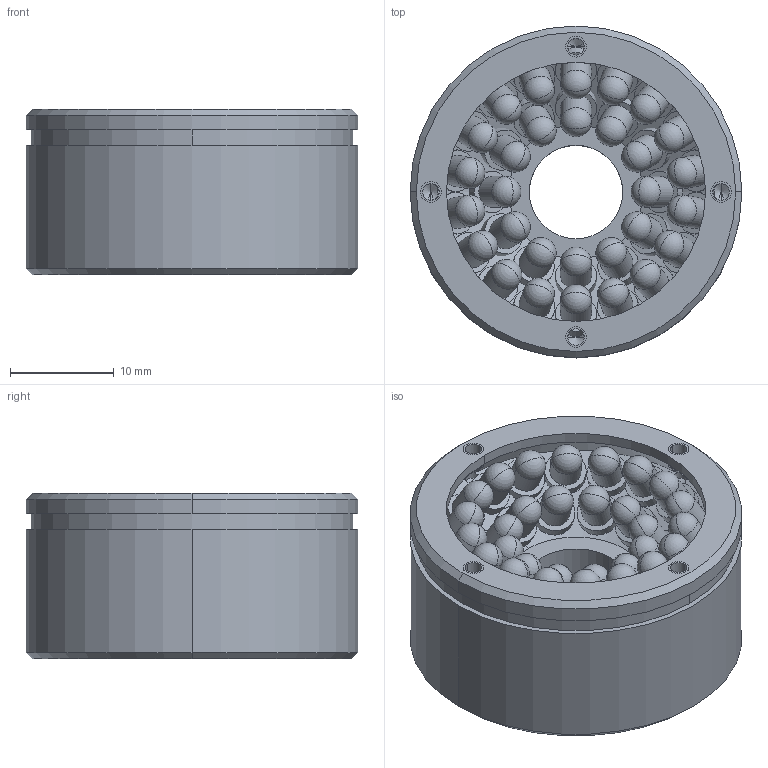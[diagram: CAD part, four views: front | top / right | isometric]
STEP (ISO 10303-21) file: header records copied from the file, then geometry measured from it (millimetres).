
FILE_DESCRIPTION((''),'2;1');
FILE_NAME('DRL3230_ASM','2020-03-27T',('ASUS'),(''),'PRO/ENGINEER BY PARAMETRIC TECHNOLOGY CORPORATION, 2008380','PRO/ENGINEER BY PARAMETRIC TECHNOLOGY CORPORATION, 2008380','');
FILE_SCHEMA(('CONFIG_CONTROL_DESIGN'));
Length unit declared in the file: millimetre
Products named in the file (3): DRL3230; LED; DRL3230_ASM
Assembly tree (31 placements, depth 2):
  DRL3230_ASM
    DRL3230
    LED  x30
Bounding box: 32 x 32 x 16 mm (x, y, z)
Volume: 9650.7 mm3; surface area: 6555.6 mm2
Topology: 31 solids, 39 shells, 321 faces, 722 edges, 424 vertices
Faces by surface type: cylinder 162, plane 73, sphere 60, cone 26
Entity records: 3381 total; most frequent: CARTESIAN_POINT 810, DIRECTION 574, ORIENTED_EDGE 430, AXIS2_PLACEMENT_3D 251, EDGE_CURVE 240, VERTEX_POINT 163, CIRCLE 126, EDGE_LOOP 107
